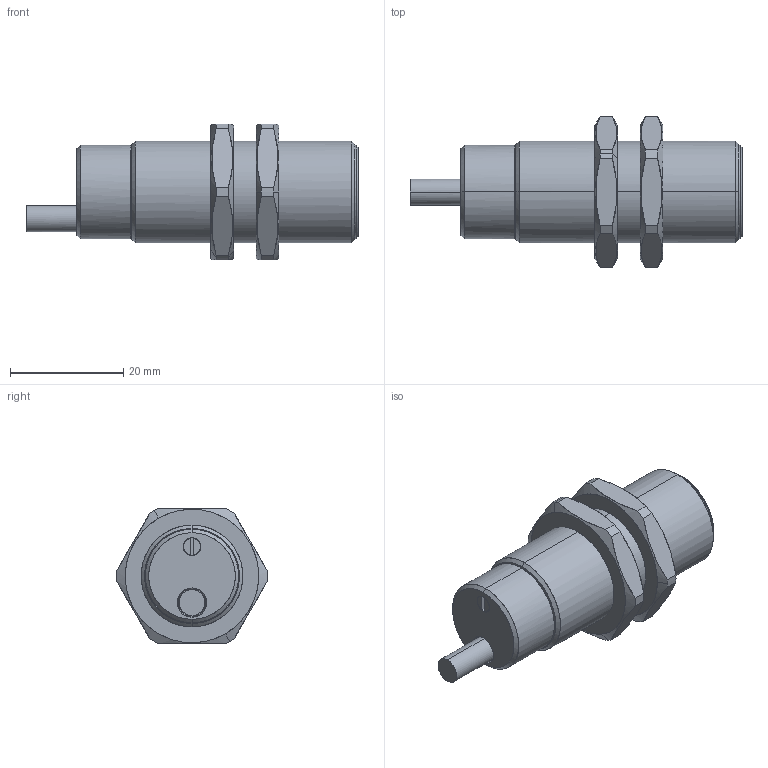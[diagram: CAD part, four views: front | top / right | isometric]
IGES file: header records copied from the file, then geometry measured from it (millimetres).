
Start section: Comment
Global section: file name: FxAM 18_Kabel_50_Poti hinten.igs; native system:  By Spatial Corp.; preprocessor: XPlus GENERIC/IGES 3.0; author: Author; organization: Title; date: 20040804.173307; units: inch
Bounding box: 58.7 x 26.8 x 24 mm (x, y, z)
Surface area: 5444.8 mm2 (no closed solid volume)
Topology: 0 solids, 0 shells, 104 faces, 468 edges, 468 vertices
Faces by surface type: bspline 104
